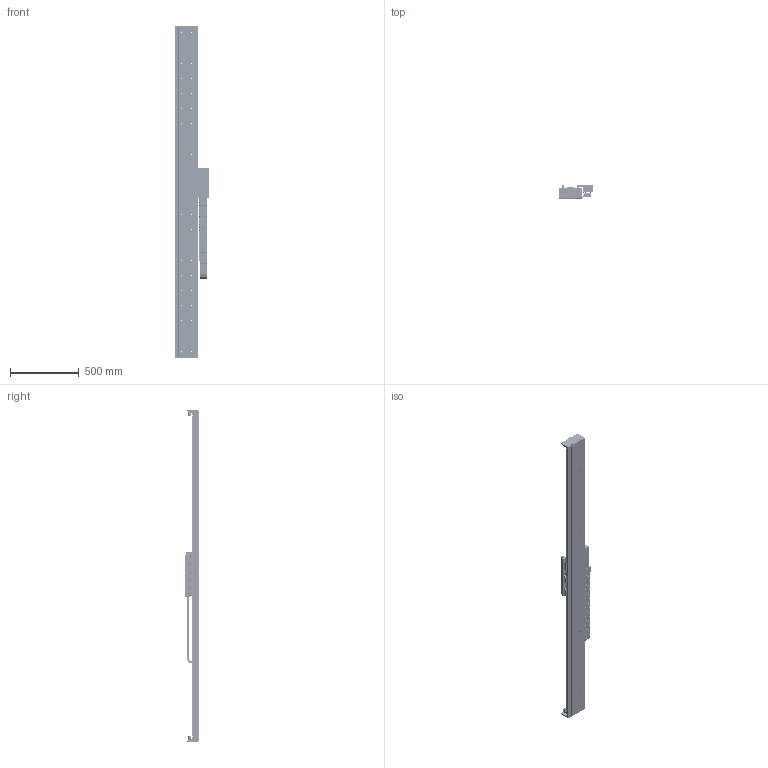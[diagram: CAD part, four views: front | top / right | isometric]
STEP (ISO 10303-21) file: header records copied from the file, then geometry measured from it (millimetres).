
FILE_DESCRIPTION (( 'STEP AP203' ), '1' );
FILE_NAME ('STF35230R-xC1B-Axx.STEP', '2007-07-02T21:25:20', ( 'Yaskawa' ), ( 'Yaskawa' ), 'SwSTEP 2.0', 'SolidWorks 2007', '' );
FILE_SCHEMA (( 'CONFIG_CONTROL_DESIGN' ));
Length unit declared in the file: millimetre
Products named in the file (59): STF2035-006 Endplate; STF2035-002B-R1 F35-230 Carriage Horn; 07.50.028.0_110; STCM-002-R2 Cable Assembly Front; Bumper-Medium; STF2035-004 Flag; STF35BM Base_STF35120-018; SGLFM-35756AC; 07.50.028.0_119; STF2035-005-R2 Cable Router; STCM-006-R1 Upper E-chain Bracket; 07.50.028.0_112; 07.50.028.0_104; B18.3.4M - 3 x 0.5 x 12 SBHCS --N_B18.3.4M - 3 x 0.5 x 12 SBHCS --N; 07.50.028.0_118; STF2035-007 End Stop; STCM-004 Cable Assembly Side; 07.50.028.0_113; 07.50.028.0_107; 07.50.028.0_101; 07.50.028.0_108; Serial Converter; B18.3.5M - 3 x 0.5 x 6 Socket FCHS  -- 6N_B18.3.5M - 3 x 0.5 x 6 Socket FCHS  -- 6N; 07.50.028.0_96; 07.50.028.0_106; SSR15W Block; STCM-005-R1 Cable Assembly Cover; 07.50.028.0_122; STF35120 Base_STF35BM-018; STCM-001-R2 Cable Bracket; 07.50.028.0_114; 07.50.028.0_115; STF20120S; 07.50.028.0_123; STF35230 Complete Carriage; 07.50.028.0_102; STF2035-001D F35-230 Carriage; B18.3.1M - 6 x 1.0 x 16 Hex SHCS -- 16NHX_B18.3.1M - 6 x 1.0 x 16 Hex SHCS -- 16NHX; 07.50.028.0_109; 07.50.028.0_97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
Assembly tree (115 placements, depth 4):
  STF35230R-xC1B-Axx
    STF2035-006 Endplate  x2
    STCM-007 Lower E-Chain Bracket
    STF35BM Base_STF35120-018
      Mult-SR15+580LY_018  x2
      End Stop with Bumper  x4
        STF2035-007 End Stop
        B18.3.1M - 6 x 1.0 x 16 Hex SHCS -- 16NHX_B18.3.1M - 6 x 1.0 x 16 Hex SHCS -- 16NHX
        Bumper-Medium
      STF35120 Base_STF35BM-018
      SGLFM-35756AC  x3
    STF20120S
      07.50.028.0_111  x20
      07.50.028.0_104
      07.50.028.0_119
      07.50.028.0_105  x18
      07.50.028.0_96
      07.50.028.0_122
      07.50.028.0_98
      07.50.028.0_101
      07.50.028.0_121
      07.50.028.0_107
      07.50.028.0_115
      07.50.028.0_120
      07.50.028.0_108
      07.50.028.0_109
      07.50.028.0_123
      07.50.028.0_116
      07.50.028.0_106
      07.50.028.0_110
      07.50.028.0_102
      07.50.028.0_97
      07.50.028.0_112
      07.50.028.0_117
      07.50.028.0_113
      07.50.028.0_114
      07.50.028.0_100
      07.50.028.0_103
      07.50.028.0_118
      07.50.028.0_99
    STF35230 Complete Carriage
      STF2035-001D F35-230 Carriage
      SSR15W Block  x6
      STCM-R1
        B18.3.5M - 3 x 0.5 x 6 Socket FCHS  -- 6N_B18.3.5M - 3 x 0.5 x 6 Socket FCHS  -- 6N  x6
        Serial Converter
        STCM-001-R2 Cable Bracket
        B18.3.4M - 3 x 0.5 x 12 SBHCS --N_B18.3.4M - 3 x 0.5 x 12 SBHCS --N  x4
        STCM-002-R2 Cable Assembly Front
        STCM-004 Cable Assembly Side
        STCM-003 Cable Assembly Bottom
        STCM-006-R1 Upper E-chain Bracket
        STCM-005-R1 Cable Assembly Cover
      STF2035-003 Renishaw Encoder Mount
      STF2035-004 Flag
      SGLFW-35A230AP
      STF2035-005-R2 Cable Router
      STF2035-002B-R1 F35-230 Carriage Horn  x2
      RGH22B
Bounding box: 251.03 x 94.7 x 2409.05 mm (x, y, z)
Volume: 11438533.7 mm3; surface area: 3147284.3 mm2
Topology: 178 solids, 178 shells, 9657 faces, 24943 edges, 15893 vertices
Faces by surface type: plane 4958, cylinder 3869, cone 728, bspline 62, torus 32, sphere 8
Entity records: 155701 total; most frequent: DIRECTION 26604, CARTESIAN_POINT 25690, ORIENTED_EDGE 24240, EDGE_CURVE 12120, AXIS2_PLACEMENT_3D 9530, VERTEX_POINT 7915, LINE 7544, VECTOR 7544
